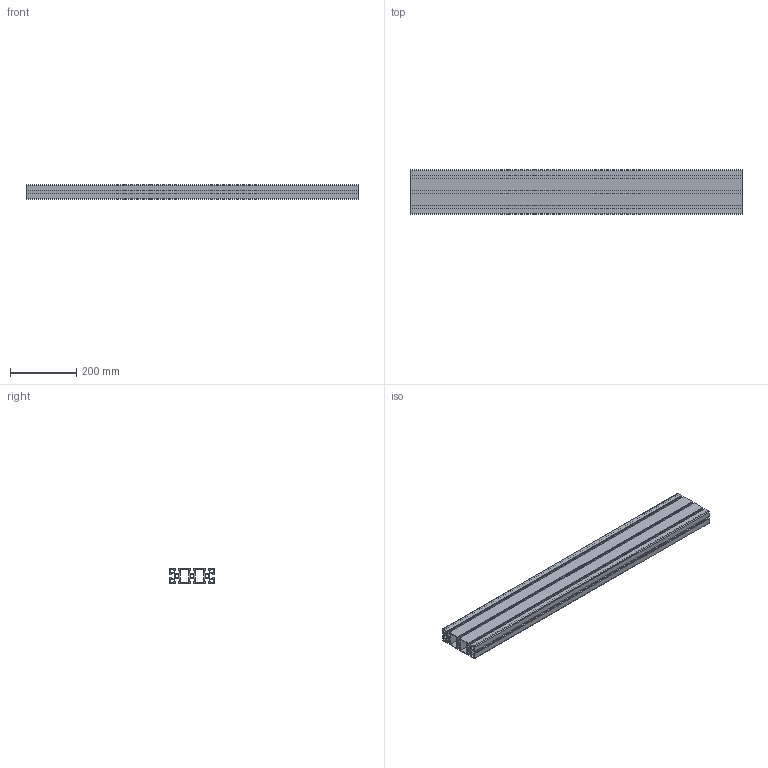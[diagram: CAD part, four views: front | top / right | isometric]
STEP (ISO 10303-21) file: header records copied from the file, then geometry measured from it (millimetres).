
FILE_DESCRIPTION (( 'STEP AP214' ), '1' );
FILE_NAME ('1.0213 45X135 musta 1000mm.STEP', '2026-03-18T07:09:32', ( '' ), ( '' ), 'SwSTEP 2.0', 'SolidWorks 2025', '' );
FILE_SCHEMA (( 'AUTOMOTIVE_DESIGN' ));
Length unit declared in the file: millimetre
Products named in the file (1): 1.0213 45X135 musta 1000mm
Bounding box: 1000 x 135 x 45 mm (x, y, z)
Volume: 2047347.4 mm3; surface area: 1180883 mm2
Topology: 1 solids, 1 shells, 265 faces, 789 edges, 526 vertices
Faces by surface type: cylinder 135, plane 130
Entity records: 9032 total; most frequent: DIRECTION 1591, CARTESIAN_POINT 1581, ORIENTED_EDGE 1578, EDGE_CURVE 789, AXIS2_PLACEMENT_3D 536, VERTEX_POINT 526, LINE 519, VECTOR 519
